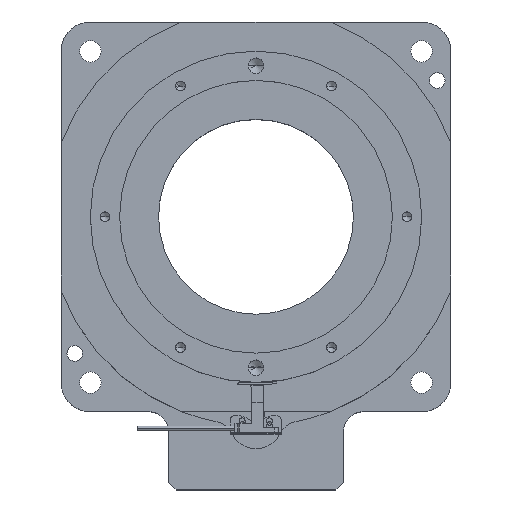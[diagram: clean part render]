
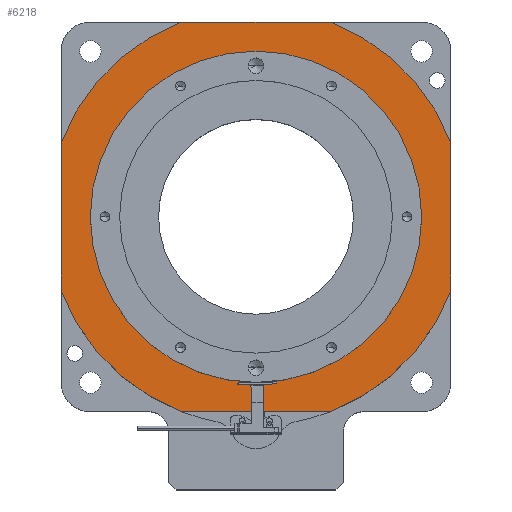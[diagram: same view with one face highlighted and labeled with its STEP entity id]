
A CAD part, top view. The second image highlights one B-rep face of the part: STEP entity #6218.
In plain terms, the highlighted planar face has unit normal (0, 0, 1).
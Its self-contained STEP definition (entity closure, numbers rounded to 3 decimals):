
#8 = ORIENTED_EDGE ( 'NONE', *, *, #4309, .T. ) ;
#290 = EDGE_CURVE ( 'NONE', #7253, #6128, #2542, .T. ) ;
#685 = EDGE_CURVE ( 'NONE', #5101, #3750, #6723, .T. ) ;
#809 = DIRECTION ( 'NONE',  ( -1., 0., 0. ) ) ;
#846 = CARTESIAN_POINT ( 'NONE',  ( -50.49, -83.548, 37.6 ) ) ;
#1285 = AXIS2_PLACEMENT_3D ( 'NONE', #5108, #1444, #4540 ) ;
#1437 = EDGE_CURVE ( 'NONE', #6905, #2838, #1522, .T. ) ;
#1444 = DIRECTION ( 'NONE',  ( 0., 0., 1. ) ) ;
#1488 = EDGE_CURVE ( 'NONE', #3750, #5101, #2895, .T. ) ;
#1522 = CIRCLE ( 'NONE', #2304, 107. ) ;
#1527 = CARTESIAN_POINT ( 'NONE',  ( 87.576, -21.614, 37.6 ) ) ;
#1710 = CARTESIAN_POINT ( 'NONE',  ( 25.641, 116.452, 37.6 ) ) ;
#1936 = CARTESIAN_POINT ( 'NONE',  ( -112.424, -21.614, 37.6 ) ) ;
#2013 = VECTOR ( 'NONE', #809, 1000. ) ;
#2056 = PLANE ( 'NONE',  #1285 ) ;
#2146 = EDGE_LOOP ( 'NONE', ( #4815, #5561, #2962, #6858, #7664, #6682, #8, #6678 ) ) ;
#2200 = DIRECTION ( 'NONE',  ( -1., 0., 0. ) ) ;
#2274 = CARTESIAN_POINT ( 'NONE',  ( -97.424, 16.452, 37.6 ) ) ;
#2304 = AXIS2_PLACEMENT_3D ( 'NONE', #4727, #7219, #6608 ) ;
#2309 = CARTESIAN_POINT ( 'NONE',  ( -12.424, 16.452, 37.6 ) ) ;
#2529 = LINE ( 'NONE', #6897, #4369 ) ;
#2542 = CIRCLE ( 'NONE', #7370, 107. ) ;
#2654 = LINE ( 'NONE', #7687, #2952 ) ;
#2670 = EDGE_CURVE ( 'NONE', #2838, #6908, #7710, .T. ) ;
#2728 = CARTESIAN_POINT ( 'NONE',  ( -97.424, 116.452, 37.6 ) ) ;
#2838 = VERTEX_POINT ( 'NONE', #1710 ) ;
#2895 = CIRCLE ( 'NONE', #7579, 85. ) ;
#2929 = DIRECTION ( 'NONE',  ( 1., 0., 0. ) ) ;
#2952 = VECTOR ( 'NONE', #3841, 1000. ) ;
#2962 = ORIENTED_EDGE ( 'NONE', *, *, #4074, .T. ) ;
#3062 = VERTEX_POINT ( 'NONE', #1936 ) ;
#3095 = CARTESIAN_POINT ( 'NONE',  ( -50.49, 116.452, 37.6 ) ) ;
#3116 = EDGE_CURVE ( 'NONE', #7253, #7609, #6511, .T. ) ;
#3194 = CIRCLE ( 'NONE', #7374, 107. ) ;
#3256 = DIRECTION ( 'NONE',  ( 1., 0., 0. ) ) ;
#3260 = EDGE_LOOP ( 'NONE', ( #4697, #4158 ) ) ;
#3311 = DIRECTION ( 'NONE',  ( 0., 1., 0. ) ) ;
#3500 = DIRECTION ( 'NONE',  ( 1., 0., 0. ) ) ;
#3553 = DIRECTION ( 'NONE',  ( 0., 0., 1. ) ) ;
#3573 = CARTESIAN_POINT ( 'NONE',  ( -76.276, -83.548, 37.6 ) ) ;
#3583 = CARTESIAN_POINT ( 'NONE',  ( 25.641, -83.548, 37.6 ) ) ;
#3596 = CIRCLE ( 'NONE', #5023, 107. ) ;
#3655 = DIRECTION ( 'NONE',  ( 0., 0., 1. ) ) ;
#3730 = DIRECTION ( 'NONE',  ( 1., 0., 0. ) ) ;
#3750 = VERTEX_POINT ( 'NONE', #7673 ) ;
#3841 = DIRECTION ( 'NONE',  ( 0., -1., 0. ) ) ;
#3874 = EDGE_CURVE ( 'NONE', #3062, #7609, #3596, .T. ) ;
#4027 = EDGE_CURVE ( 'NONE', #6908, #6038, #3194, .T. ) ;
#4074 = EDGE_CURVE ( 'NONE', #6128, #6905, #2529, .T. ) ;
#4158 = ORIENTED_EDGE ( 'NONE', *, *, #685, .F. ) ;
#4295 = CARTESIAN_POINT ( 'NONE',  ( -12.424, 16.452, 37.6 ) ) ;
#4309 = EDGE_CURVE ( 'NONE', #6038, #3062, #2654, .T. ) ;
#4369 = VECTOR ( 'NONE', #3311, 1000. ) ;
#4476 = CARTESIAN_POINT ( 'NONE',  ( -12.424, 16.452, 37.6 ) ) ;
#4540 = DIRECTION ( 'NONE',  ( 1., 0., 0. ) ) ;
#4697 = ORIENTED_EDGE ( 'NONE', *, *, #1488, .F. ) ;
#4727 = CARTESIAN_POINT ( 'NONE',  ( -12.424, 16.452, 37.6 ) ) ;
#4794 = DIRECTION ( 'NONE',  ( 0., 0., 1. ) ) ;
#4805 = CARTESIAN_POINT ( 'NONE',  ( -12.424, 16.452, 37.6 ) ) ;
#4815 = ORIENTED_EDGE ( 'NONE', *, *, #3116, .F. ) ;
#4888 = CARTESIAN_POINT ( 'NONE',  ( 87.576, 54.518, 37.6 ) ) ;
#5023 = AXIS2_PLACEMENT_3D ( 'NONE', #4476, #6355, #3256 ) ;
#5101 = VERTEX_POINT ( 'NONE', #2274 ) ;
#5108 = CARTESIAN_POINT ( 'NONE',  ( -12.424, -3.548, 37.6 ) ) ;
#5157 = AXIS2_PLACEMENT_3D ( 'NONE', #4295, #3655, #3730 ) ;
#5359 = CARTESIAN_POINT ( 'NONE',  ( -112.424, 54.518, 37.6 ) ) ;
#5561 = ORIENTED_EDGE ( 'NONE', *, *, #290, .T. ) ;
#5574 = CARTESIAN_POINT ( 'NONE',  ( -12.424, 16.452, 37.6 ) ) ;
#6038 = VERTEX_POINT ( 'NONE', #5359 ) ;
#6074 = DIRECTION ( 'NONE',  ( 1., 0., 0. ) ) ;
#6128 = VERTEX_POINT ( 'NONE', #1527 ) ;
#6147 = VECTOR ( 'NONE', #2200, 1000. ) ;
#6218 = ADVANCED_FACE ( 'NONE', ( #7654, #7077 ), #2056, .T. ) ;
#6228 = DIRECTION ( 'NONE',  ( 0., 0., 1. ) ) ;
#6355 = DIRECTION ( 'NONE',  ( 0., 0., 1. ) ) ;
#6511 = LINE ( 'NONE', #3573, #2013 ) ;
#6608 = DIRECTION ( 'NONE',  ( 1., 0., 0. ) ) ;
#6678 = ORIENTED_EDGE ( 'NONE', *, *, #3874, .T. ) ;
#6682 = ORIENTED_EDGE ( 'NONE', *, *, #4027, .T. ) ;
#6723 = CIRCLE ( 'NONE', #5157, 85. ) ;
#6858 = ORIENTED_EDGE ( 'NONE', *, *, #1437, .T. ) ;
#6897 = CARTESIAN_POINT ( 'NONE',  ( 87.576, 101.452, 37.6 ) ) ;
#6905 = VERTEX_POINT ( 'NONE', #4888 ) ;
#6908 = VERTEX_POINT ( 'NONE', #3095 ) ;
#7077 = FACE_OUTER_BOUND ( 'NONE', #2146, .T. ) ;
#7219 = DIRECTION ( 'NONE',  ( 0., 0., 1. ) ) ;
#7253 = VERTEX_POINT ( 'NONE', #3583 ) ;
#7370 = AXIS2_PLACEMENT_3D ( 'NONE', #2309, #4794, #3500 ) ;
#7374 = AXIS2_PLACEMENT_3D ( 'NONE', #4805, #3553, #2929 ) ;
#7579 = AXIS2_PLACEMENT_3D ( 'NONE', #5574, #6228, #6074 ) ;
#7609 = VERTEX_POINT ( 'NONE', #846 ) ;
#7654 = FACE_BOUND ( 'NONE', #3260, .T. ) ;
#7664 = ORIENTED_EDGE ( 'NONE', *, *, #2670, .T. ) ;
#7673 = CARTESIAN_POINT ( 'NONE',  ( 72.576, 16.452, 37.6 ) ) ;
#7687 = CARTESIAN_POINT ( 'NONE',  ( -112.424, 101.452, 37.6 ) ) ;
#7710 = LINE ( 'NONE', #2728, #6147 ) ;
